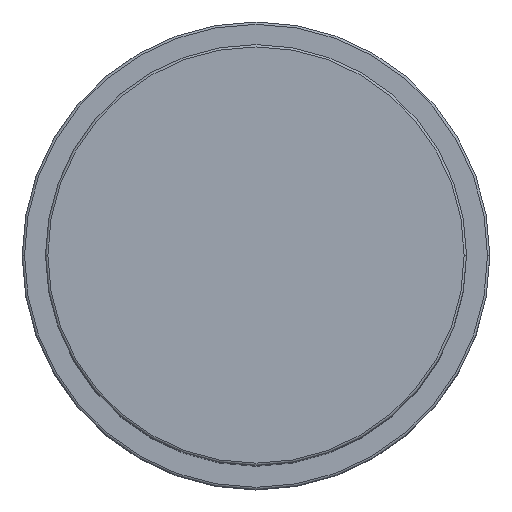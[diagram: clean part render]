
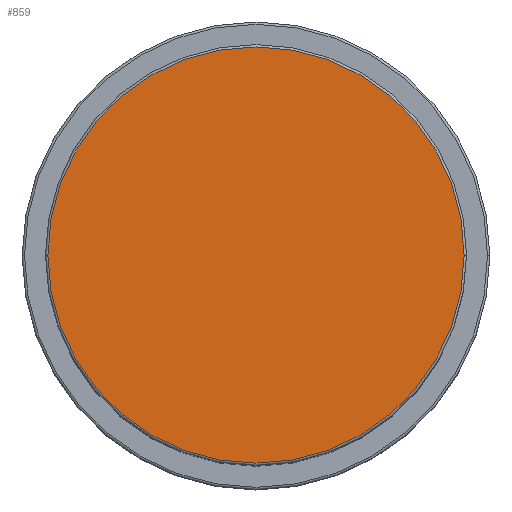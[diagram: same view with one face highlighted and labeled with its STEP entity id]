
A CAD part, top view. The second image highlights one B-rep face of the part: STEP entity #859.
In plain terms, the highlighted planar face has unit normal (0, 0, 1).
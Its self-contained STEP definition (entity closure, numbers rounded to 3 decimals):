
#8 = DIRECTION ( 'NONE',  ( 1., 0., 0. ) ) ;
#11 = AXIS2_PLACEMENT_3D ( 'NONE', #1494, #996, #1348 ) ;
#46 = DIRECTION ( 'NONE',  ( 1., 0., 0. ) ) ;
#100 = EDGE_CURVE ( 'NONE', #1367, #668, #1138, .T. ) ;
#286 = CARTESIAN_POINT ( 'NONE',  ( -44.5, 0., 117. ) ) ;
#311 = DIRECTION ( 'NONE',  ( 0., 0., 1. ) ) ;
#322 = FACE_OUTER_BOUND ( 'NONE', #670, .T. ) ;
#412 = CARTESIAN_POINT ( 'NONE',  ( 44.5, 0., 117. ) ) ;
#462 = EDGE_CURVE ( 'NONE', #668, #1367, #1067, .T. ) ;
#540 = ORIENTED_EDGE ( 'NONE', *, *, #100, .T. ) ;
#613 = PLANE ( 'NONE',  #11 ) ;
#646 = CARTESIAN_POINT ( 'NONE',  ( 0., 0., 117. ) ) ;
#668 = VERTEX_POINT ( 'NONE', #286 ) ;
#670 = EDGE_LOOP ( 'NONE', ( #540, #777 ) ) ;
#777 = ORIENTED_EDGE ( 'NONE', *, *, #462, .T. ) ;
#859 = ADVANCED_FACE ( 'NONE', ( #322 ), #613, .T. ) ;
#956 = CARTESIAN_POINT ( 'NONE',  ( 0., 0., 117. ) ) ;
#996 = DIRECTION ( 'NONE',  ( 0., 0., 1. ) ) ;
#1067 = CIRCLE ( 'NONE', #1636, 44.5 ) ;
#1138 = CIRCLE ( 'NONE', #1589, 44.5 ) ;
#1294 = DIRECTION ( 'NONE',  ( 0., 0., 1. ) ) ;
#1348 = DIRECTION ( 'NONE',  ( 1., 0., 0. ) ) ;
#1367 = VERTEX_POINT ( 'NONE', #412 ) ;
#1494 = CARTESIAN_POINT ( 'NONE',  ( 0., 0., 117. ) ) ;
#1589 = AXIS2_PLACEMENT_3D ( 'NONE', #956, #311, #46 ) ;
#1636 = AXIS2_PLACEMENT_3D ( 'NONE', #646, #1294, #8 ) ;
